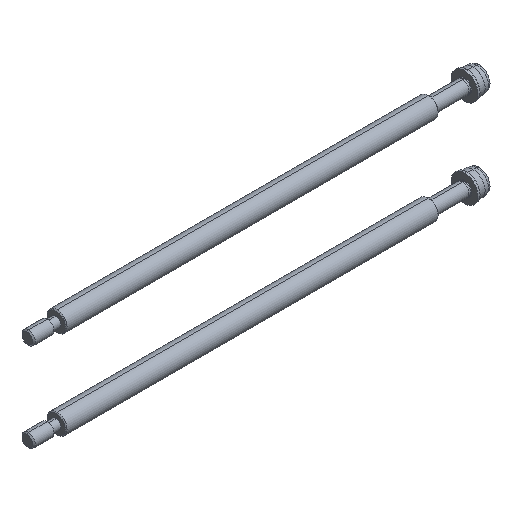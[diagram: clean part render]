
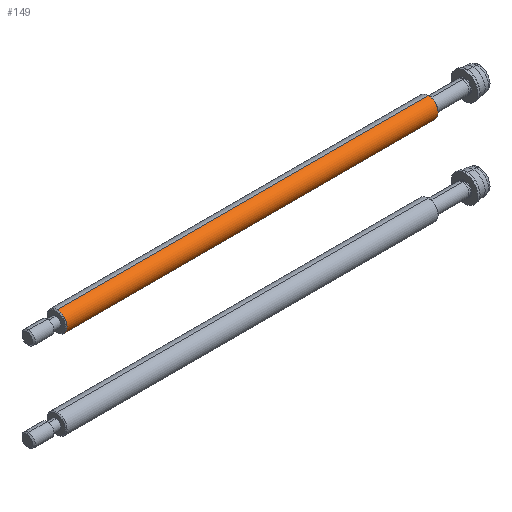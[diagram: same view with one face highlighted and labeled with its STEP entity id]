
A CAD part, isometric view. The second image highlights one B-rep face of the part: STEP entity #149.
In plain terms, the highlighted cylindrical face has radius 2.25 mm (diameter 4.5 mm), a partial arc.
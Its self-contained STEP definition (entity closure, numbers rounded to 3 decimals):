
#149=ADVANCED_FACE('',(#372),#371,.T.);
#371=CYLINDRICAL_SURFACE('',#816,2.25);
#372=FACE_OUTER_BOUND('',#817,.T.);
#813=CARTESIAN_POINT('',(0.,0.,0.));
#814=DIRECTION('',(1.,0.,0.));
#815=DIRECTION('',(0.,0.,1.));
#816=AXIS2_PLACEMENT_3D('',#813,#814,#815);
#817=EDGE_LOOP('',(#1094,#1095,#1096,#1097));
#1094=ORIENTED_EDGE('',*,*,#1243,.T.);
#1095=ORIENTED_EDGE('',*,*,#1244,.F.);
#1096=ORIENTED_EDGE('',*,*,#1239,.T.);
#1097=ORIENTED_EDGE('',*,*,#1245,.T.);
#1239=EDGE_CURVE('',#1522,#1521,#1541,.T.);
#1243=EDGE_CURVE('',#1548,#1547,#1567,.T.);
#1244=EDGE_CURVE('',#1522,#1547,#1573,.T.);
#1245=EDGE_CURVE('',#1521,#1548,#1579,.T.);
#1521=VERTEX_POINT('',#2027);
#1522=VERTEX_POINT('',#2028);
#1541=CIRCLE('',#2040,2.25);
#1547=VERTEX_POINT('',#2041);
#1548=VERTEX_POINT('',#2042);
#1567=CIRCLE('',#2054,2.25);
#1573=(BOUNDED_CURVE() B_SPLINE_CURVE(1,(#2055,#2056),.UNSPECIFIED.,.F.,.F.) B_SPLINE_CURVE_WITH_KNOTS((2,2),(0.083,0.917),.UNSPECIFIED.) CURVE() GEOMETRIC_REPRESENTATION_ITEM() RATIONAL_B_SPLINE_CURVE((1.,1.)) REPRESENTATION_ITEM('') );
#1579=(BOUNDED_CURVE() B_SPLINE_CURVE(1,(#2057,#2058),.UNSPECIFIED.,.F.,.F.) B_SPLINE_CURVE_WITH_KNOTS((2,2),(0.083,0.917),.UNSPECIFIED.) CURVE() GEOMETRIC_REPRESENTATION_ITEM() RATIONAL_B_SPLINE_CURVE((0.75,0.75)) REPRESENTATION_ITEM('') );
#2027=CARTESIAN_POINT('',(0.2,0.,-2.25));
#2028=CARTESIAN_POINT('',(0.2,0.,2.25));
#2037=CARTESIAN_POINT('',(0.2,0.,0.));
#2038=DIRECTION('',(1.,0.,0.));
#2039=DIRECTION('',(0.,0.,1.));
#2040=AXIS2_PLACEMENT_3D('',#2037,#2038,#2039);
#2041=CARTESIAN_POINT('',(83.8,0.,2.25));
#2042=CARTESIAN_POINT('',(83.8,0.,-2.25));
#2051=CARTESIAN_POINT('',(83.8,0.,0.));
#2052=DIRECTION('',(-1.,0.,0.));
#2053=DIRECTION('',(0.,0.,-1.));
#2054=AXIS2_PLACEMENT_3D('',#2051,#2052,#2053);
#2055=CARTESIAN_POINT('',(0.2,0.,2.25));
#2056=CARTESIAN_POINT('',(83.8,0.,2.25));
#2057=CARTESIAN_POINT('',(0.2,0.,-2.25));
#2058=CARTESIAN_POINT('',(83.8,0.,-2.25));
